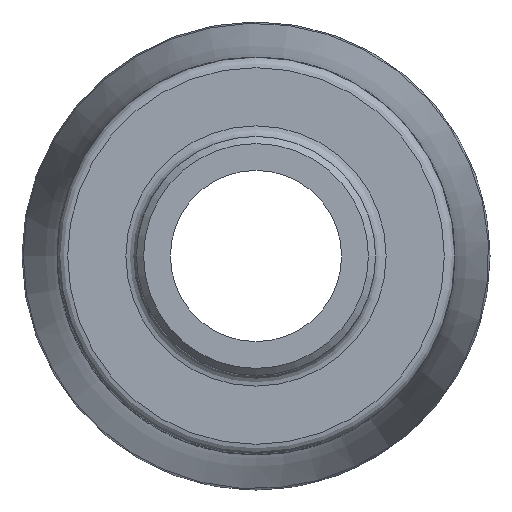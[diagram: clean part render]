
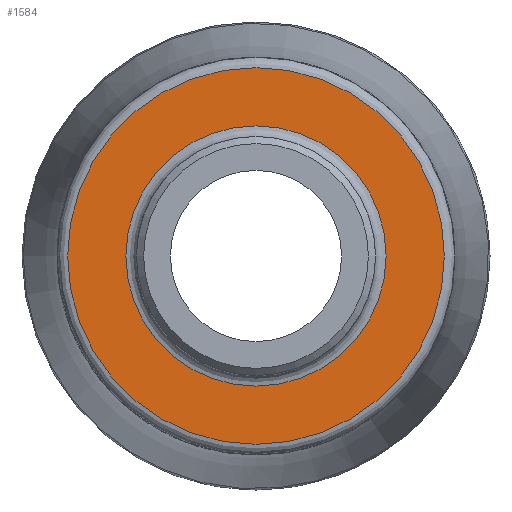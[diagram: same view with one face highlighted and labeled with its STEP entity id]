
A CAD part, left-side view. The second image highlights one B-rep face of the part: STEP entity #1584.
In plain terms, the highlighted planar face has unit normal (-1, 0, 0).
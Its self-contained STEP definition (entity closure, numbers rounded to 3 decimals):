
#262=PLANE('',#1742);
#356=FACE_BOUND('',#504,.T.);
#392=FACE_OUTER_BOUND('',#503,.T.);
#503=EDGE_LOOP('',(#1230));
#504=EDGE_LOOP('',(#1231));
#632=CIRCLE('',#1741,11.403);
#633=CIRCLE('',#1743,16.5);
#742=VERTEX_POINT('',#2845);
#743=VERTEX_POINT('',#2848);
#920=EDGE_CURVE('',#742,#742,#632,.T.);
#921=EDGE_CURVE('',#743,#743,#633,.T.);
#1230=ORIENTED_EDGE('',*,*,#921,.F.);
#1231=ORIENTED_EDGE('',*,*,#920,.F.);
#1584=ADVANCED_FACE('',(#392,#356),#262,.T.);
#1741=AXIS2_PLACEMENT_3D('',#2846,#2035,#2036);
#1742=AXIS2_PLACEMENT_3D('',#2847,#2037,#2038);
#1743=AXIS2_PLACEMENT_3D('',#2849,#2039,#2040);
#2035=DIRECTION('center_axis',(-1.,0.,0.));
#2036=DIRECTION('ref_axis',(0.,-1.,0.));
#2037=DIRECTION('center_axis',(-1.,0.,0.));
#2038=DIRECTION('ref_axis',(0.,0.,1.));
#2039=DIRECTION('center_axis',(1.,0.,0.));
#2040=DIRECTION('ref_axis',(0.,-1.,0.));
#2845=CARTESIAN_POINT('',(16.,11.403,0.));
#2846=CARTESIAN_POINT('Origin',(16.,0.,0.));
#2847=CARTESIAN_POINT('Origin',(16.,17.425,0.));
#2848=CARTESIAN_POINT('',(16.,16.5,0.));
#2849=CARTESIAN_POINT('Origin',(16.,0.,0.));
